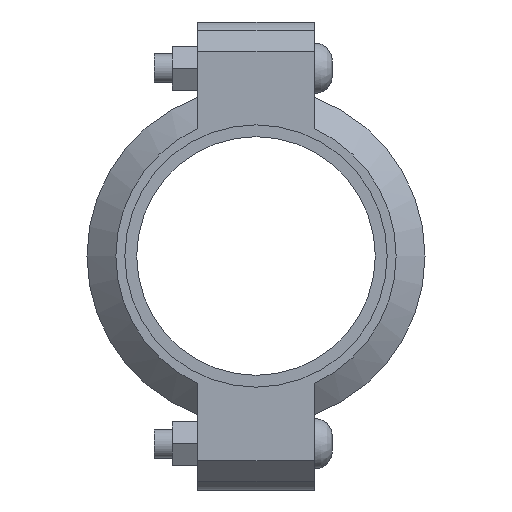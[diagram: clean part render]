
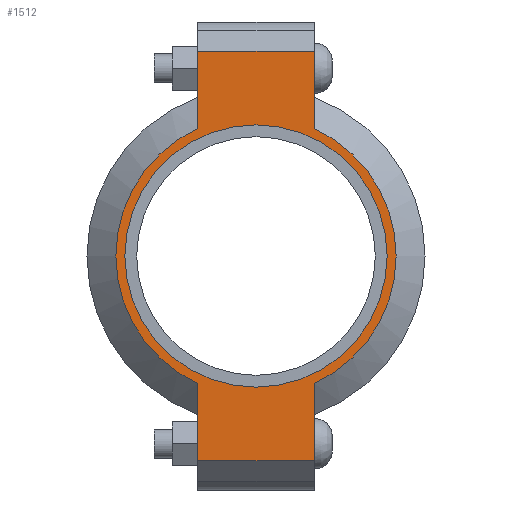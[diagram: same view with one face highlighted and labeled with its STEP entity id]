
A CAD part, left-side view. The second image highlights one B-rep face of the part: STEP entity #1512.
In plain terms, the highlighted planar face has unit normal (-1, 0, 0) as drawn and (0, 0, 1) by its records, which use the part's own axes.
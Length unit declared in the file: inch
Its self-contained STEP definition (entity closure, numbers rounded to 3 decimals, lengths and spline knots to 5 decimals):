
#192=LINE('',#2605,#283);
#200=LINE('',#2641,#291);
#207=LINE('',#2662,#298);
#216=LINE('',#2694,#307);
#217=LINE('',#2698,#308);
#218=LINE('',#2700,#309);
#283=VECTOR('',#2099,0.3937);
#291=VECTOR('',#2115,0.3937);
#298=VECTOR('',#2134,0.3937);
#307=VECTOR('',#2159,0.3937);
#308=VECTOR('',#2164,0.3937);
#309=VECTOR('',#2165,0.3937);
#361=FACE_BOUND('',#521,.T.);
#425=FACE_OUTER_BOUND('',#520,.T.);
#520=EDGE_LOOP('',(#1247,#1248,#1249,#1250,#1251,#1252,#1253,#1254));
#521=EDGE_LOOP('',(#1255));
#618=CIRCLE('',#1755,2.405);
#619=CIRCLE('',#1756,2.405);
#620=CIRCLE('',#1757,2.25);
#723=VERTEX_POINT('',#2602);
#724=VERTEX_POINT('',#2604);
#735=VERTEX_POINT('',#2636);
#736=VERTEX_POINT('',#2640);
#743=VERTEX_POINT('',#2659);
#744=VERTEX_POINT('',#2661);
#754=VERTEX_POINT('',#2697);
#755=VERTEX_POINT('',#2699);
#756=VERTEX_POINT('',#2702);
#887=EDGE_CURVE('',#724,#723,#192,.T.);
#901=EDGE_CURVE('',#736,#735,#200,.T.);
#911=EDGE_CURVE('',#744,#743,#207,.T.);
#926=EDGE_CURVE('',#736,#723,#216,.T.);
#927=EDGE_CURVE('',#735,#744,#618,.T.);
#928=EDGE_CURVE('',#754,#743,#217,.T.);
#929=EDGE_CURVE('',#754,#755,#218,.T.);
#930=EDGE_CURVE('',#755,#724,#619,.T.);
#931=EDGE_CURVE('',#756,#756,#620,.T.);
#1247=ORIENTED_EDGE('',*,*,#926,.F.);
#1248=ORIENTED_EDGE('',*,*,#901,.T.);
#1249=ORIENTED_EDGE('',*,*,#927,.T.);
#1250=ORIENTED_EDGE('',*,*,#911,.T.);
#1251=ORIENTED_EDGE('',*,*,#928,.F.);
#1252=ORIENTED_EDGE('',*,*,#929,.T.);
#1253=ORIENTED_EDGE('',*,*,#930,.T.);
#1254=ORIENTED_EDGE('',*,*,#887,.T.);
#1255=ORIENTED_EDGE('',*,*,#931,.T.);
#1366=PLANE('',#1754);
#1512=ADVANCED_FACE('',(#425,#361),#1366,.T.);
#1754=AXIS2_PLACEMENT_3D('',#2695,#2160,#2161);
#1755=AXIS2_PLACEMENT_3D('',#2696,#2162,#2163);
#1756=AXIS2_PLACEMENT_3D('',#2701,#2166,#2167);
#1757=AXIS2_PLACEMENT_3D('',#2703,#2168,#2169);
#2099=DIRECTION('',(-1.,0.,0.));
#2115=DIRECTION('',(1.,0.,0.));
#2134=DIRECTION('',(1.,0.,0.));
#2159=DIRECTION('',(0.,1.,0.));
#2160=DIRECTION('center_axis',(0.,0.,1.));
#2161=DIRECTION('ref_axis',(1.,0.,0.));
#2162=DIRECTION('center_axis',(0.,0.,1.));
#2163=DIRECTION('ref_axis',(-1.,0.,0.));
#2164=DIRECTION('',(0.,-1.,0.));
#2165=DIRECTION('',(-1.,0.,0.));
#2166=DIRECTION('center_axis',(0.,0.,1.));
#2167=DIRECTION('ref_axis',(-1.,0.,0.));
#2168=DIRECTION('center_axis',(0.,0.,-1.));
#2169=DIRECTION('ref_axis',(-1.,0.,0.));
#2602=CARTESIAN_POINT('',(-3.515,1.,1.065));
#2604=CARTESIAN_POINT('',(-2.18724,1.,1.065));
#2605=CARTESIAN_POINT('',(-4.015,1.,1.065));
#2636=CARTESIAN_POINT('',(-2.18724,-1.,1.065));
#2640=CARTESIAN_POINT('',(-3.515,-1.,1.065));
#2641=CARTESIAN_POINT('',(4.015,-1.,1.065));
#2659=CARTESIAN_POINT('',(3.515,-1.,1.065));
#2661=CARTESIAN_POINT('',(2.18724,-1.,1.065));
#2662=CARTESIAN_POINT('',(4.015,-1.,1.065));
#2694=CARTESIAN_POINT('',(-3.515,0.5,1.065));
#2695=CARTESIAN_POINT('Origin',(0.,0.,1.065));
#2696=CARTESIAN_POINT('Origin',(0.,0.,1.065));
#2697=CARTESIAN_POINT('',(3.515,1.,1.065));
#2698=CARTESIAN_POINT('',(3.515,-0.5,1.065));
#2699=CARTESIAN_POINT('',(2.18724,1.,1.065));
#2700=CARTESIAN_POINT('',(-4.015,1.,1.065));
#2701=CARTESIAN_POINT('Origin',(0.,0.,1.065));
#2702=CARTESIAN_POINT('',(2.25,0.,1.065));
#2703=CARTESIAN_POINT('Origin',(0.,0.,1.065));
